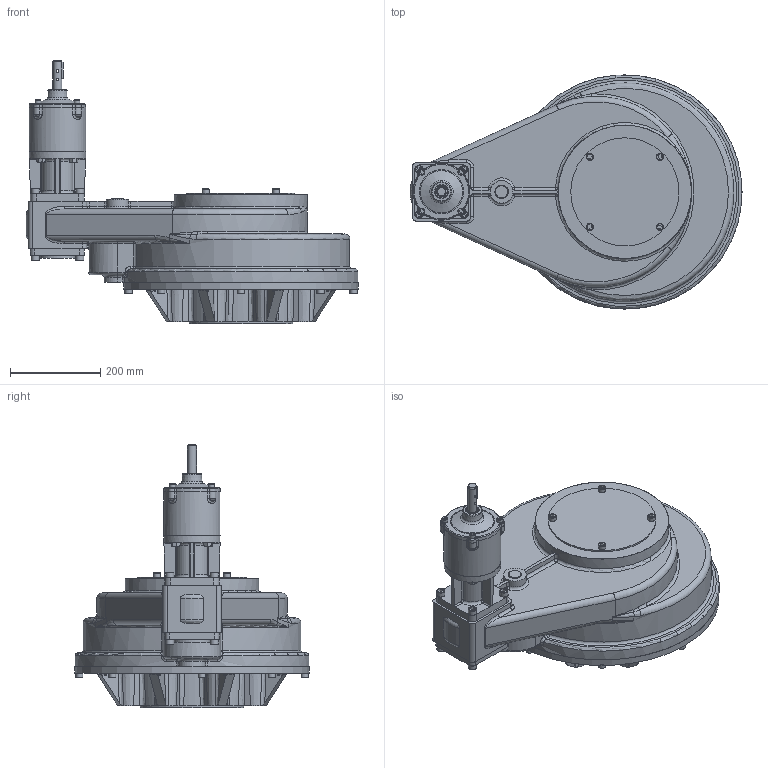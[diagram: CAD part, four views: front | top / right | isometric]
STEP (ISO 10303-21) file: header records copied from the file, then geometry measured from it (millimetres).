
FILE_DESCRIPTION( ( 'Unknown' ), '1' );
FILE_NAME( 'X:/CURRENT/PUB/Hos/HOS 2015/HOS-MPR/HOS-MPR-Models/PUB-HOS12MPR4-63.3-MAN-F30.stp', 'Unknown', ( 'Unknown' ), ( 'Unknown' ), 'PSStep 16.0.42', 'Unknown', ' ' );
FILE_SCHEMA( ( 'AUTOMOTIVE_DESIGN { 1 0 10303 214 1 1 1 1 }' ) );
Length unit declared in the file: millimetre
Products named in the file (45): 1; 2; 3; 4; 5; 6; 7; 8; 9; 10; 11; 12; 13; 14; 15; 16; 17; 18; 19; 20; 21; 22; 23; 24; 25; 26; trelleborg_trea00200-n7mm_b5c67wtxxcj74kwnwb2box077_01; 27; 28; 29; 30; 31; 32; 33; 34; 35; 36; 37; 38; 39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
Bounding box: 736.7 x 520 x 585.6 mm (x, y, z)
Surface area: 1298910.7 mm2 (no closed solid volume)
Topology: 0 solids, 979 shells, 979 faces, 4574 edges, 4409 vertices
Faces by surface type: plane 335, cylinder 220, bspline 129, torus 124, cone 111, sphere 60
Full cylindrical faces by diameter (mm): 6 x2, 13.27 x4, 16 x12, 17.5 x8, 18 x8, 20 x1, 39.95 x1, 50 x1, 80 x1, 125 x1, 126 x1, 130.175 x1, 229.95 x1, 239.95 x1, 240 x1, 296 x1, 520 x1
Entity records: 81189 total; most frequent: CARTESIAN_POINT 40061, DIRECTION 6911, VERTEX_POINT 4367, ORIENTED_EDGE 4359, EDGE_CURVE 4359, AXIS2_PLACEMENT_3D 2593, LINE 1725, VECTOR 1725
